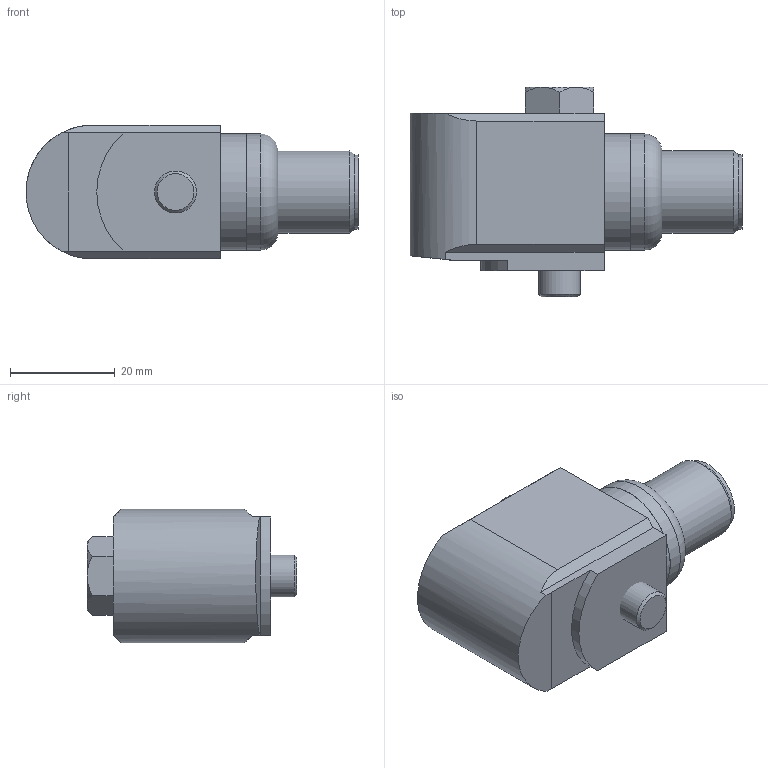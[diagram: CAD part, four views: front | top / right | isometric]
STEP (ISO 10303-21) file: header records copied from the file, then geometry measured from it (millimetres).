
FILE_DESCRIPTION(/* description */ (''),/* implementation_level */ '2;1');
FILE_NAME(/* name */ 'Z:\Engineering\Drawings\3D Library\Assemblies\Website\Premium Side\HS-150 Side 2 Pin MS\HS-150SXXX5008.stp',/* time_stamp */ '2023-03-12T13:07:26+00:00',/* author */ ('Ricardo.Peneda'),/* organization */ (''),/* preprocessor_version */ 'ST-DEVELOPER v18.1',/* originating_system */ 'Autodesk Inventor 2021',/* authorisation */ '');
FILE_SCHEMA (('AUTOMOTIVE_DESIGN { 1 0 10303 214 3 1 1 }'));
Length unit declared in the file: inch
Products named in the file (1): HS-150SXXX5008_Shrinkwrap_1
Bounding box: 63.27 x 40 x 25.5 mm (x, y, z)
Volume: 27402.5 mm3; surface area: 11390.6 mm2
Topology: 4 solids, 4 shells, 63 faces, 149 edges, 104 vertices
Faces by surface type: plane 35, cylinder 17, cone 10, torus 1
Full cylindrical faces by diameter (mm): 6.4 x1, 6.647 x1, 8 x1, 10 x1, 11.37 x1, 13 x1, 14.28 x1, 14.95 x1, 15.34 x1, 15.35 x1, 15.7 x1, 19 x1, 20 x1, 22.2 x2
Entity records: 1976 total; most frequent: CARTESIAN_POINT 343, DIRECTION 340, ORIENTED_EDGE 298, EDGE_CURVE 149, AXIS2_PLACEMENT_3D 139, VERTEX_POINT 104, EDGE_LOOP 75, CIRCLE 70
